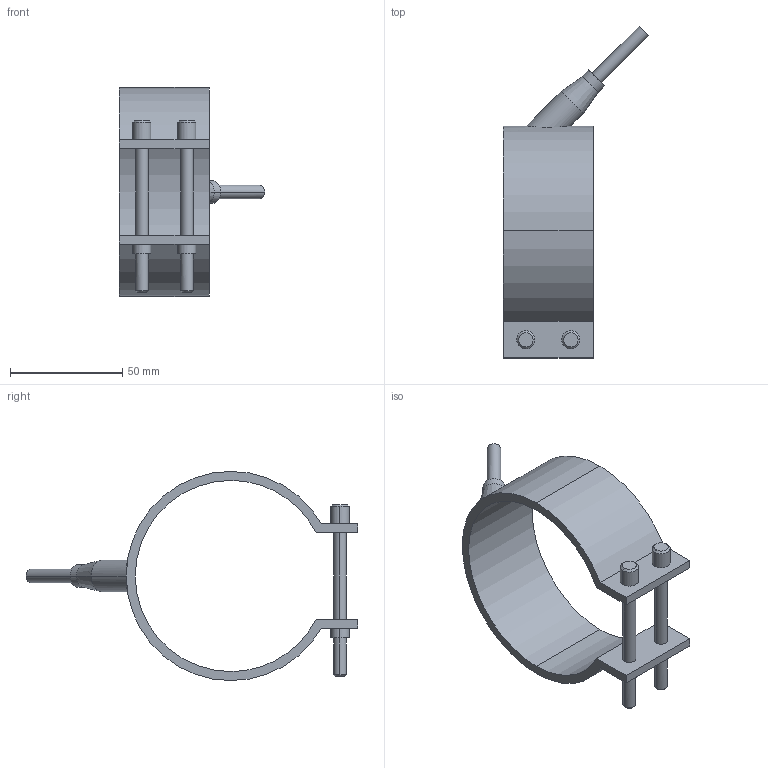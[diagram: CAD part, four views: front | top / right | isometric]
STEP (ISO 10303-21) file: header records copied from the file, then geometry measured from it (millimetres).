
FILE_DESCRIPTION(('CATIA V5 STEP Exchange'),'2;1');
FILE_NAME('C:\Users\Utente\Desktop\IO LAVORO\3D X SITO CF\X SITO\PLASTICA\RF1\29085040.stp','2021-03-29T18:04:00+00:00',('none'),('none'),'CATIA Version 5 Release 20 GA (IN-10)','CATIA V5 STEP AP203','none');
FILE_SCHEMA(('CONFIG_CONTROL_DESIGN'));
Length unit declared in the file: millimetre
Products named in the file (1): 29085040
Bounding box: 64.55 x 147.55 x 93 mm (x, y, z)
Volume: 52098.2 mm3; surface area: 28231.4 mm2
Topology: 1 solids, 1 shells, 54 faces, 123 edges, 79 vertices
Faces by surface type: cylinder 28, plane 16, cone 10
Entity records: 1746 total; most frequent: CARTESIAN_POINT 518, ORIENTED_EDGE 246, DIRECTION 211, EDGE_CURVE 123, AXIS2_PLACEMENT_3D 104, VERTEX_POINT 79, EDGE_LOOP 66, VECTOR 56
